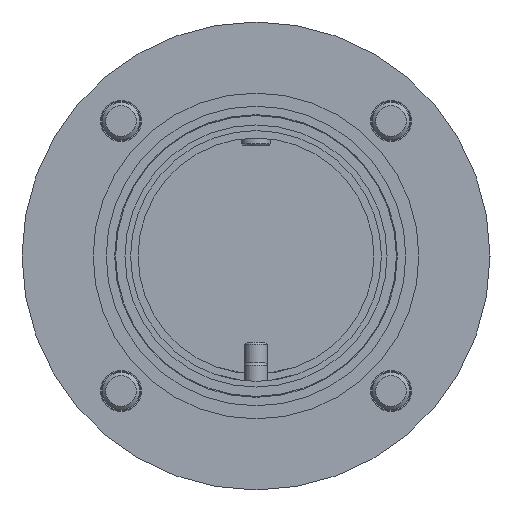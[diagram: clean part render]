
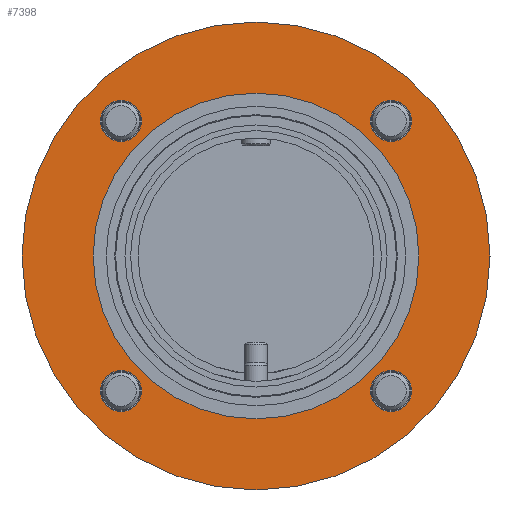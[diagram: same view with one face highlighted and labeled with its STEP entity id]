
A CAD part, left-side view. The second image highlights one B-rep face of the part: STEP entity #7398.
In plain terms, the highlighted planar face has unit normal (-1, 0, 0).
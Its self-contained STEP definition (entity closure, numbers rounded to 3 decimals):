
#7380 = VERTEX_POINT('',#7381);
#7381 = CARTESIAN_POINT('',(0.,-62.5,0.));
#7386 = EDGE_CURVE('',#7380,#7380,#7387,.T.);
#7387 = CIRCLE('',#7388,62.5);
#7388 = AXIS2_PLACEMENT_3D('',#7389,#7390,#7391);
#7389 = CARTESIAN_POINT('',(0.,0.,0.));
#7390 = DIRECTION('',(1.,0.,0.));
#7391 = DIRECTION('',(0.,-1.,0.));
#7398 = ADVANCED_FACE('',(#7399,#7402,#7413,#7424,#7435,#7446),#7457,.T.
  );
#7399 = FACE_BOUND('',#7400,.T.);
#7400 = EDGE_LOOP('',(#7401));
#7401 = ORIENTED_EDGE('',*,*,#7386,.F.);
#7402 = FACE_BOUND('',#7403,.T.);
#7403 = EDGE_LOOP('',(#7404));
#7404 = ORIENTED_EDGE('',*,*,#7405,.T.);
#7405 = EDGE_CURVE('',#7406,#7406,#7408,.T.);
#7406 = VERTEX_POINT('',#7407);
#7407 = CARTESIAN_POINT('',(0.,30.562,
    36.062));
#7408 = CIRCLE('',#7409,5.5);
#7409 = AXIS2_PLACEMENT_3D('',#7410,#7411,#7412);
#7410 = CARTESIAN_POINT('',(0.,36.062,
    36.062));
#7411 = DIRECTION('',(1.,0.,0.));
#7412 = DIRECTION('',(0.,-1.,0.));
#7413 = FACE_BOUND('',#7414,.T.);
#7414 = EDGE_LOOP('',(#7415));
#7415 = ORIENTED_EDGE('',*,*,#7416,.T.);
#7416 = EDGE_CURVE('',#7417,#7417,#7419,.T.);
#7417 = VERTEX_POINT('',#7418);
#7418 = CARTESIAN_POINT('',(0.,36.062,
    -30.562));
#7419 = CIRCLE('',#7420,5.5);
#7420 = AXIS2_PLACEMENT_3D('',#7421,#7422,#7423);
#7421 = CARTESIAN_POINT('',(0.,36.062,
    -36.062));
#7422 = DIRECTION('',(1.,0.,-0.));
#7423 = DIRECTION('',(0.,0.,1.));
#7424 = FACE_BOUND('',#7425,.T.);
#7425 = EDGE_LOOP('',(#7426));
#7426 = ORIENTED_EDGE('',*,*,#7427,.T.);
#7427 = EDGE_CURVE('',#7428,#7428,#7430,.T.);
#7428 = VERTEX_POINT('',#7429);
#7429 = CARTESIAN_POINT('',(0.,-30.562,
    -36.062));
#7430 = CIRCLE('',#7431,5.5);
#7431 = AXIS2_PLACEMENT_3D('',#7432,#7433,#7434);
#7432 = CARTESIAN_POINT('',(0.,-36.062,
    -36.062));
#7433 = DIRECTION('',(1.,0.,0.));
#7434 = DIRECTION('',(-0.,1.,0.));
#7435 = FACE_BOUND('',#7436,.T.);
#7436 = EDGE_LOOP('',(#7437));
#7437 = ORIENTED_EDGE('',*,*,#7438,.T.);
#7438 = EDGE_CURVE('',#7439,#7439,#7441,.T.);
#7439 = VERTEX_POINT('',#7440);
#7440 = CARTESIAN_POINT('',(0.,-36.062,
    30.562));
#7441 = CIRCLE('',#7442,5.5);
#7442 = AXIS2_PLACEMENT_3D('',#7443,#7444,#7445);
#7443 = CARTESIAN_POINT('',(0.,-36.062,
    36.062));
#7444 = DIRECTION('',(1.,0.,0.));
#7445 = DIRECTION('',(0.,0.,-1.));
#7446 = FACE_BOUND('',#7447,.T.);
#7447 = EDGE_LOOP('',(#7448));
#7448 = ORIENTED_EDGE('',*,*,#7449,.T.);
#7449 = EDGE_CURVE('',#7450,#7450,#7452,.T.);
#7450 = VERTEX_POINT('',#7451);
#7451 = CARTESIAN_POINT('',(0.,-43.5,0.));
#7452 = CIRCLE('',#7453,43.5);
#7453 = AXIS2_PLACEMENT_3D('',#7454,#7455,#7456);
#7454 = CARTESIAN_POINT('',(0.,0.,0.));
#7455 = DIRECTION('',(1.,0.,0.));
#7456 = DIRECTION('',(0.,-1.,0.));
#7457 = PLANE('',#7458);
#7458 = AXIS2_PLACEMENT_3D('',#7459,#7460,#7461);
#7459 = CARTESIAN_POINT('',(0.,-53.,0.));
#7460 = DIRECTION('',(-1.,0.,0.));
#7461 = DIRECTION('',(0.,0.,-1.));
